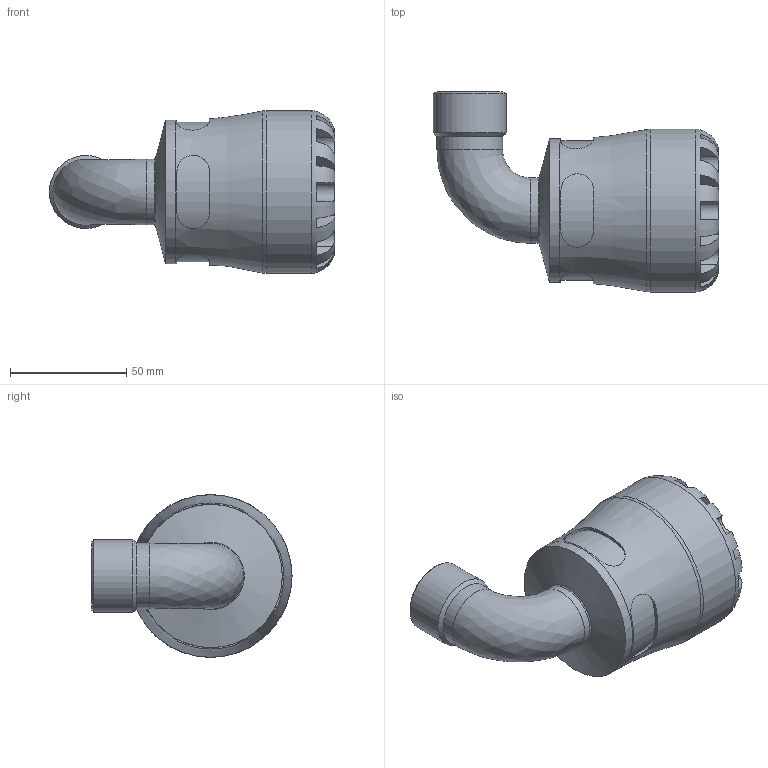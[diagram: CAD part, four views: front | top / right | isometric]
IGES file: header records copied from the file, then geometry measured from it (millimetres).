
Global section: file name: 107600040007_197600040007.ipt; native system: Autodesk Inventor 2015; preprocessor: unknown; author: KIM; date: 20180513.110322; units: millimetre
Bounding box: 122.68 x 86 x 70 mm (x, y, z)
Volume: 177049.2 mm3; surface area: 43383.6 mm2
Topology: 1 solids, 1 shells, 108 faces, 277 edges, 176 vertices
Faces by surface type: plane 60, revolution 28, cylinder 17, cone 3
Full cylindrical faces by diameter (mm): 28.217 x2, 31.352 x1, 61.6 x1, 70 x1
